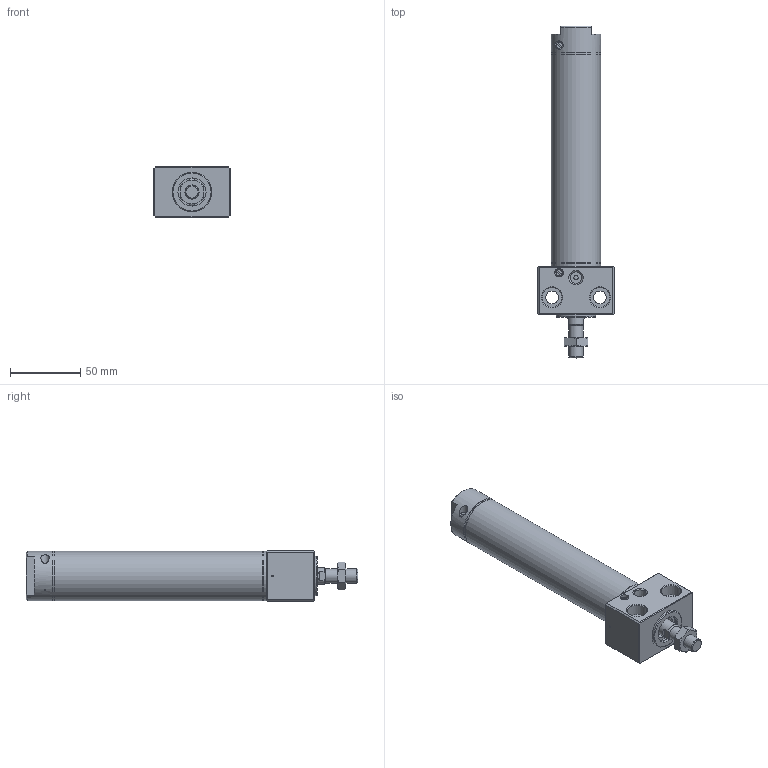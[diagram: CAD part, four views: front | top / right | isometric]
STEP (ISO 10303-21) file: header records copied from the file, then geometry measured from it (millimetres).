
FILE_DESCRIPTION((''),'2;1');
FILE_NAME('I:\3D電子目錄\氣缸\DBS\DBS\DBS30x100-C.stp','2007-10-08T08:42:44',('Administrator'),(''),'Autodesk Inventor 2008','Autodesk Inventor 2008','');
FILE_SCHEMA(('AUTOMOTIVE_DESIGN { 1 0 10303 214 1 1 1 1 }'));
Length unit declared in the file: millimetre
Products named in the file (1): DBS30x100-C
Bounding box: 54 x 235.6 x 36 mm (x, y, z)
Volume: 129866.3 mm3; surface area: 58713.9 mm2
Topology: 8 solids, 8 shells, 207 faces, 423 edges, 258 vertices
Faces by surface type: plane 93, cone 50, cylinder 48, bspline 13, torus 3
Full cylindrical faces by diameter (mm): 1.2 x1, 1.9 x2, 3 x3, 3.3 x2, 4.6 x2, 5 x2, 6 x2, 6.5 x1, 8 x1, 9 x1, 10 x2, 12 x1, 12.5 x1, 14 x1, 16 x1, 17 x2, 20 x2, 21 x3, 24 x2, 28 x3, 28.5 x2, 30 x1, 32.2 x6, 35 x4
Entity records: 5397 total; most frequent: CARTESIAN_POINT 1440, DIRECTION 828, ORIENTED_EDGE 642, AXIS2_PLACEMENT_3D 364, EDGE_LOOP 349, EDGE_CURVE 321, VERTEX_POINT 246, FACE_OUTER_BOUND 207
